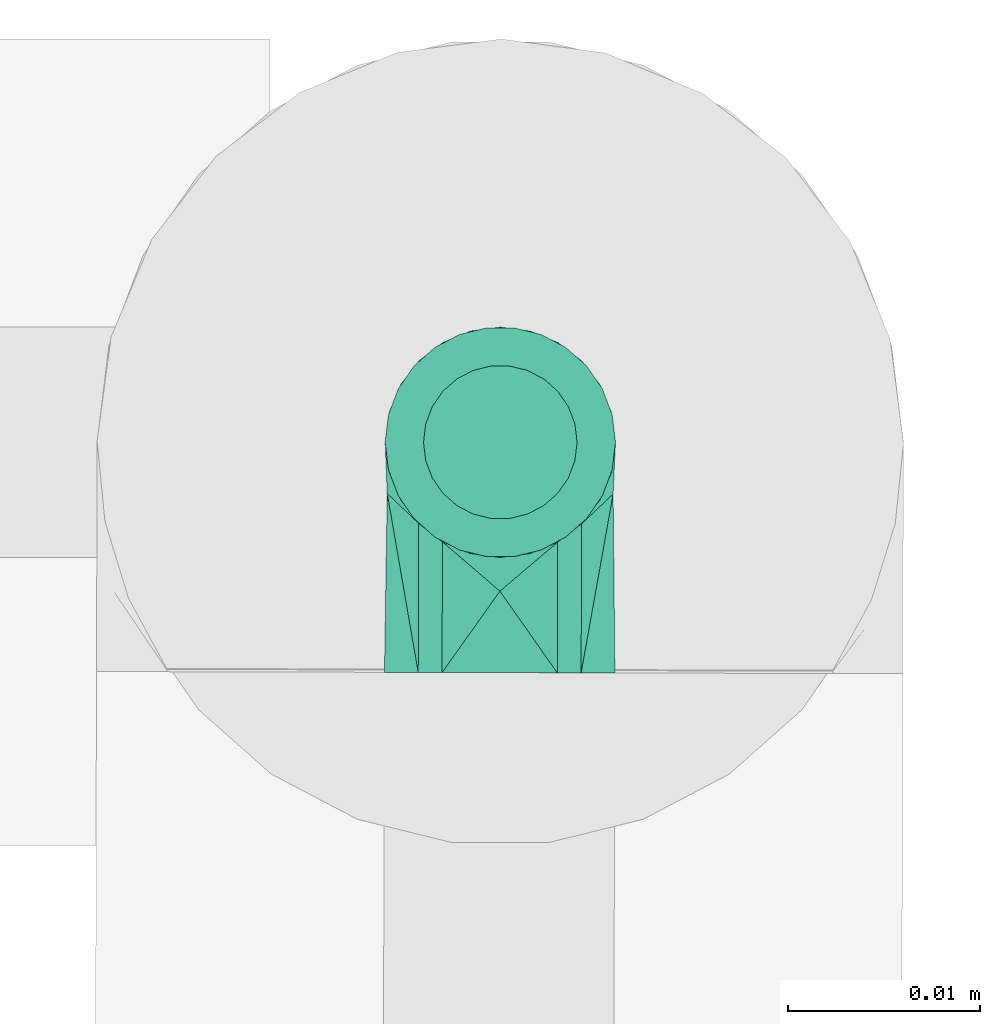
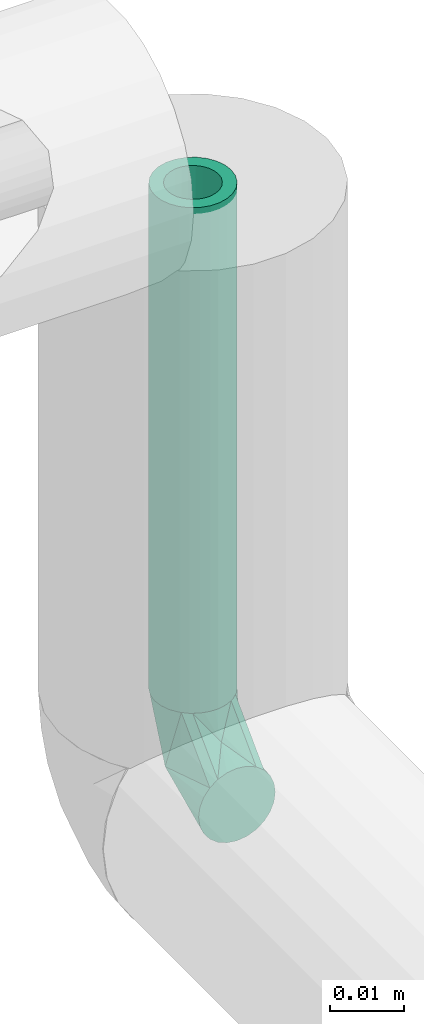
# One storey, part 103 of 156: 1 flow fitting, 1 flow segment.
"""IFC2X3 building model written with IfcOpenShell, lengths in millimetres."""

from ifc_helpers import new_model, entity, si_unit, converted_unit, derived_unit, direction, frame, origin_with_axes, origin_2d_with_axis, place, context, subcontext, project, spatial, hollow_circle, extrude, open_shell, surface_model, source, transform, mapped, type_object, element, save


model = new_model("IFC2X3")

# Units and contexts
model_context = context("Model", 3, precision=0.01, world=frame((0.0, 4.29681676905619e-09, 0.0)), true_north=direction((4.01073788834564e-13, 1.0)))
plan_context = context("Plan", 3, precision=0.01, world=frame((0.0, 4.29681676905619e-09, 0.0)), true_north=direction((4.01073788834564e-13, 1.0)))
body_context = subcontext(model_context, "Body", "Model", "MODEL_VIEW")
ifc_project = project(units=[converted_unit("PLANEANGLEUNIT", "DEGREE", entity("IfcPositiveLengthMeasure", 0.0174532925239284), si_unit("PLANEANGLEUNIT", "RADIAN"), dimensions=[0, 0, 0, 0, 0, 0, 0]), si_unit("AREAUNIT", "SQUARE_METRE"), si_unit("LENGTHUNIT", "METRE", prefix="MILLI"), si_unit("MASSUNIT", "GRAM", prefix="KILO"), si_unit("POWERUNIT", "WATT"), si_unit("PRESSUREUNIT", "PASCAL", prefix="KILO"), si_unit("FORCEUNIT", "NEWTON", prefix="KILO"), si_unit("ELECTRICVOLTAGEUNIT", "VOLT"), si_unit("ELECTRICCURRENTUNIT", "AMPERE"), si_unit("THERMODYNAMICTEMPERATUREUNIT", "DEGREE_CELSIUS"), si_unit("TIMEUNIT", "SECOND"), si_unit("VOLUMEUNIT", "CUBIC_METRE"), derived_unit("LINEARVELOCITYUNIT", [(si_unit("LENGTHUNIT", "METRE"), 1), (si_unit("TIMEUNIT", "SECOND"), -1)]), derived_unit("VOLUMETRICFLOWRATEUNIT", [(si_unit("VOLUMEUNIT", "CUBIC_METRE"), 1), (si_unit("TIMEUNIT", "SECOND"), -1)]), derived_unit("THERMALTRANSMITTANCEUNIT", [(si_unit("POWERUNIT", "WATT"), 1), (si_unit("THERMODYNAMICTEMPERATUREUNIT", "KELVIN"), -1), (si_unit("AREAUNIT", "SQUARE_METRE"), -1)]), derived_unit("SOUNDPRESSUREUNIT", [(si_unit("PRESSUREUNIT", "PASCAL"), 1)])], contexts=[model_context, plan_context])

# Site, building, storey
site_placement = place(None, frame((0.0, -4.29681676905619e-09, 0.0), z_axis=(0.0, 0.0, 1.0), x_axis=(1.0, 0.0, 0.0)))
site = spatial("IfcSite", under=ifc_project, at=site_placement, CompositionType="ELEMENT")
building_placement = place(site_placement, frame((0.0, 4.29681676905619e-09, 0.0), z_axis=(0.0, 0.0, 1.0), x_axis=(1.0, 0.0, 0.0)))
building = spatial("IfcBuilding", under=site, at=building_placement, Name="mc-building", CompositionType="ELEMENT")
storey_placement = place(building_placement, frame((0.0, 0.0, 205200.0), z_axis=(0.0, 0.0, 1.0), x_axis=(1.0, 0.0, 0.0)))
storey = spatial("IfcBuildingStorey", under=building, at=storey_placement, Name="Nivå D + 1,2 m", CompositionType="ELEMENT", Elevation=205200.0)

# Flow fitting
pipe_fitting_type = type_object("IfcPipeFittingType", Name="magi_pipe_elbow_short_001", PredefinedType="BEND")
shared_shape_1 = source(origin_with_axes(), body_context, "Body", "SurfaceModel", [
    surface_model("IfcShellBasedSurfaceModel", [(-12.0, 0.0, -6.0), (-12.0, -5.19615, -3.0), (-12.0, 1.55291, -5.79555), (-12.0, 5.79555, -1.55291), (-12.0, -5.79555, -1.55291), (-12.0, -6.0, 0.0), (-12.0, -1.55291, 5.79555), (-12.0, 0.0, 6.0), (-12.0, -3.0, 5.19615), (-12.0, 3.0, -5.19615), (-12.0, 5.19615, -3.0), (-12.0, 4.24264, -4.24264), (-12.0, -3.0, -5.19615), (-12.0, -4.24264, -4.24264), (-12.0, -1.55291, -5.79555), (-12.0, 6.0, 0.0), (-12.0, -4.24264, 4.24264), (-12.0, 5.79555, 1.55291), (-12.0, 5.19615, 3.0), (-12.0, 4.24264, 4.24264), (-12.0, 1.55291, 5.79555), (-12.0, 3.0, 5.19615), (-12.0, -5.79555, 1.55291), (-12.0, -5.19615, 3.0), (-1.55291, 12.0, -5.79555), (5.19615, 12.0, -3.0), (0.0, 12.0, -6.0), (-5.79555, 12.0, -1.55291), (-3.0, 12.0, -5.19615), (-4.24264, 12.0, -4.24264), (-5.19615, 12.0, -3.0), (-1.55291, 12.0, 5.79555), (1.55291, 12.0, -5.79555), (4.24264, 12.0, -4.24264), (3.0, 12.0, -5.19615), (6.0, 12.0, 0.0), (5.79555, 12.0, -1.55291), (4.24264, 12.0, 4.24264), (-5.19615, 12.0, 3.0), (-5.79555, 12.0, 1.55291), (-4.24264, 12.0, 4.24264), (-3.0, 12.0, 5.19615), (5.19615, 12.0, 3.0), (5.79555, 12.0, 1.55291), (3.0, 12.0, 5.19615), (0.0, 12.0, 6.0), (1.55291, 12.0, 5.79555), (-6.0, 12.0, 0.0), (-2.67965, 2.67964, 5.88263), (-6.5981, -3.76246, 0.0), (0.72792, -0.72792, 0.0), (3.76246, 6.5981, 0.0), (-7.75736, 7.75736, 0.0), (-2.67964, 2.67964, -5.88263)], [open_shell([[[0, 1, 2]], [[3, 2, 1]], [[4, 5, 1]], [[6, 7, 8]], [[9, 2, 3]], [[3, 10, 11]], [[9, 3, 11]], [[12, 13, 14]], [[1, 14, 13]], [[0, 14, 1]], [[1, 5, 3]], [[5, 15, 3]], [[16, 17, 5]], [[18, 17, 19]], [[20, 21, 19]], [[17, 20, 19]], [[20, 17, 8]], [[5, 22, 23]], [[5, 23, 16]], [[17, 16, 8]], [[20, 8, 7]], [[17, 15, 5]], [[24, 25, 26]], [[27, 24, 28]], [[29, 30, 27]], [[29, 27, 28]], [[31, 25, 24]], [[32, 33, 34]], [[33, 32, 25]], [[25, 35, 36]], [[25, 32, 26]], [[25, 37, 35]], [[38, 24, 27]], [[27, 39, 38]], [[24, 38, 31]], [[40, 41, 31]], [[40, 31, 38]], [[37, 25, 31]], [[35, 42, 43]], [[37, 42, 35]], [[44, 45, 46]], [[44, 37, 31]], [[45, 44, 31]], [[27, 47, 39]], [[6, 48, 7]], [[23, 22, 49]], [[16, 23, 49]], [[22, 5, 49]], [[50, 51, 48]], [[8, 49, 48]], [[20, 7, 48]], [[8, 48, 6]], [[42, 51, 43]], [[16, 49, 8]], [[18, 19, 38]], [[48, 19, 21]], [[17, 18, 52]], [[52, 15, 17]], [[52, 18, 38]], [[21, 20, 48]], [[49, 50, 48]], [[44, 46, 48]], [[51, 44, 48]], [[46, 45, 48]], [[35, 43, 51]], [[44, 51, 37]], [[37, 51, 42]], [[38, 39, 52]], [[47, 52, 39]], [[41, 40, 48]], [[40, 19, 48]], [[38, 19, 40]], [[31, 41, 48]], [[45, 31, 48]], [[9, 53, 2]], [[2, 53, 0]], [[52, 10, 3]], [[50, 49, 53]], [[11, 29, 53]], [[1, 49, 4]], [[11, 10, 29]], [[9, 11, 53]], [[49, 5, 4]], [[1, 13, 49]], [[14, 53, 12]], [[49, 13, 12]], [[12, 53, 49]], [[0, 53, 14]], [[3, 15, 52]], [[52, 47, 27]], [[52, 27, 30]], [[29, 10, 30]], [[32, 53, 26]], [[53, 28, 24]], [[36, 35, 51]], [[53, 29, 28]], [[26, 53, 24]], [[53, 34, 51]], [[51, 34, 33]], [[25, 36, 51]], [[51, 50, 53]], [[51, 33, 25]], [[34, 53, 32]], [[30, 10, 52]]])]),
])
flow_fitting_placement = place(storey_placement, frame((339150.45588, 461433.25941, 4159.22687000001), z_axis=(-0.999996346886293, 0.0027030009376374, 0.0), x_axis=(0.0, 0.0, -1.0)))
element("IfcFlowFitting", 1, at=flow_fitting_placement, inside=storey, type_object=pipe_fitting_type, Name="magi_pipe_elbow_short_001", context=body_context, shape_type="MappedRepresentation", body=[
    mapped(shared_shape_1, transform((0.0, 0.0, 0.0), scale=1.0)),
])

# Flow segment
pipe_segment_type = type_object("IfcPipeSegmentType", Name="Kobberrør", PredefinedType="RIGIDSEGMENT")
shared_shape_2 = source(origin_with_axes(), body_context, "Body", "SweptSolid", [
    extrude(hollow_circle(Radius=6.0, WallThickness=2.0, at=origin_2d_with_axis()), frame((0.0, 0.0, 0.0), z_axis=(1.0, 0.0, 0.0), x_axis=(0.0, 1.0, 0.0)), (0.0, 0.0, 1.0), 83.7),
])
flow_segment_placement = place(storey_placement, frame((339150.45588, 461433.25941, 4254.92687), z_axis=(0.0, -1.0, 0.0), x_axis=(0.0, 0.0, -1.0)))
element("IfcFlowSegment", 2, at=flow_segment_placement, inside=storey, type_object=pipe_segment_type, Name="Kobberrør", context=body_context, shape_type="MappedRepresentation", body=[
    mapped(shared_shape_2, transform((0.0, 0.0, 0.0), scale=1.0)),
])

save(model, "model.ifc")
